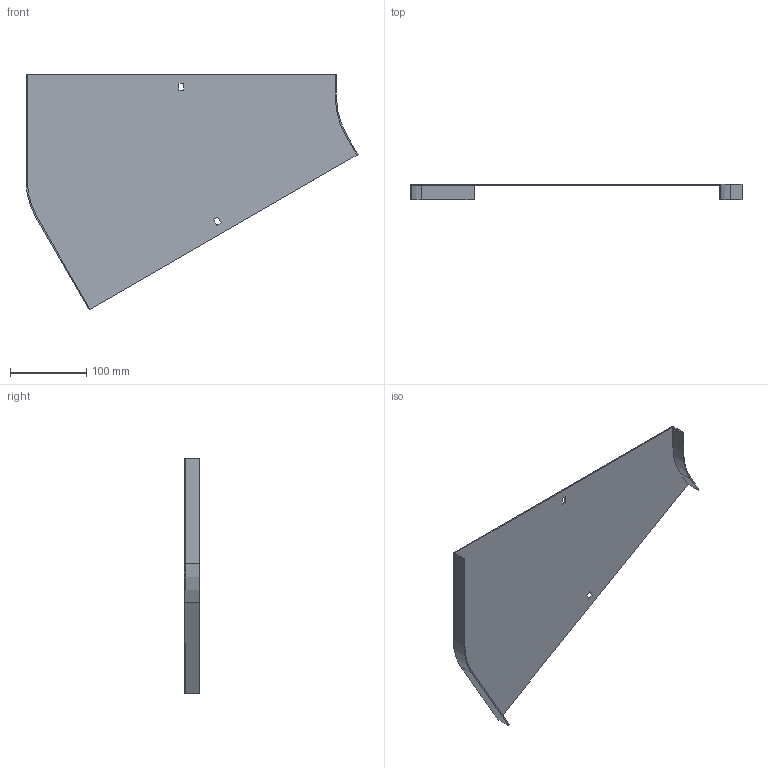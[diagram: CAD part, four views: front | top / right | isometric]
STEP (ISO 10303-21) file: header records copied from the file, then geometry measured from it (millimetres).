
FILE_DESCRIPTION (( 'STEP AP214' ), '1' );
FILE_NAME ('12G1P400.step', '2025-02-21T12:45:31', ( '' ), ( '' ), 'SwSTEP 2.0', 'SolidWorks 2023', '' );
FILE_SCHEMA (( 'AUTOMOTIVE_DESIGN' ));
Length unit declared in the file: millimetre
Products named in the file (1): 12G1P400
Bounding box: 435.2 x 20 x 308.73 mm (x, y, z)
Volume: 147497 mm3; surface area: 198749.5 mm2
Topology: 1 solids, 1 shells, 26 faces, 72 edges, 48 vertices
Faces by surface type: plane 22, cylinder 4
Entity records: 855 total; most frequent: CARTESIAN_POINT 147, ORIENTED_EDGE 144, DIRECTION 134, EDGE_CURVE 72, LINE 64, VECTOR 64, VERTEX_POINT 48, AXIS2_PLACEMENT_3D 35
